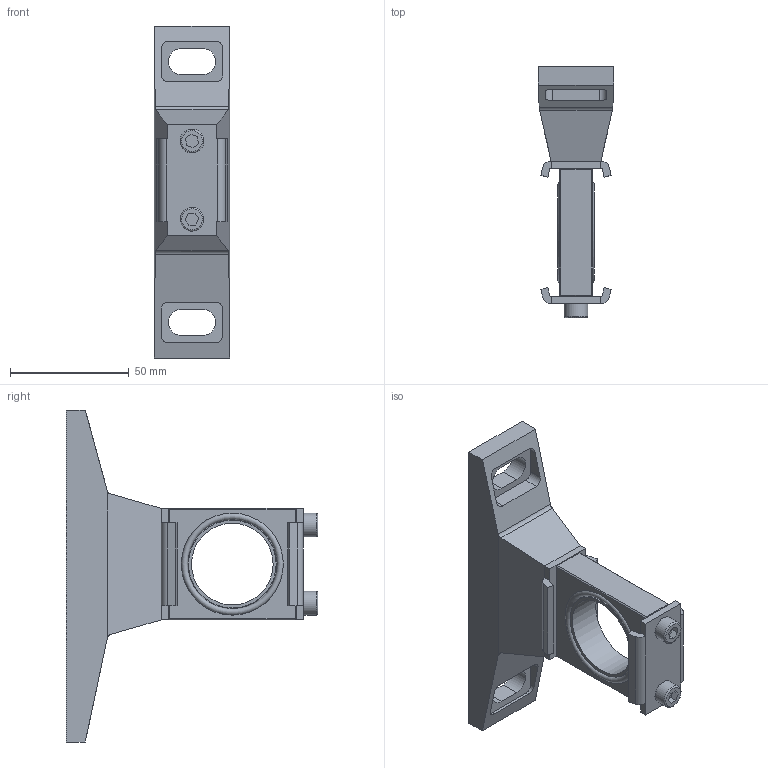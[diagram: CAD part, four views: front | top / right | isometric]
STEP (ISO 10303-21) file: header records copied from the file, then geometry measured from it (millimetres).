
FILE_DESCRIPTION( ( 'Unknown' ), '1' );
FILE_NAME( 'Y:/0-PLM共用區/支架組/2202501000100012.stp', 'Unknown', ( 'Unknown' ), ( 'Unknown' ), 'PSStep 15.0.49', 'Unknown', ' ' );
FILE_SCHEMA( ( 'AUTOMOTIVE_DESIGN { 1 0 10303 214 1 1 1 1 }' ) );
Length unit declared in the file: millimetre
Products named in the file (1): B01242
Bounding box: 32 x 106 x 140 mm (x, y, z)
Volume: 70164.6 mm3; surface area: 38994.4 mm2
Topology: 1 solids, 9 shells, 298 faces, 693 edges, 432 vertices
Faces by surface type: plane 163, cylinder 87, sphere 20, torus 14, cone 10, bspline 4
Full cylindrical faces by diameter (mm): 5.188 x4, 6 x4, 6.2 x4, 6.5 x2, 10 x4, 34.4 x1, 37 x2, 43 x4
Entity records: 10518 total; most frequent: CARTESIAN_POINT 1543, DIRECTION 1404, ORIENTED_EDGE 1244, EDGE_CURVE 622, AXIS2_PLACEMENT_3D 503, VERTEX_POINT 410, LINE 398, VECTOR 398
